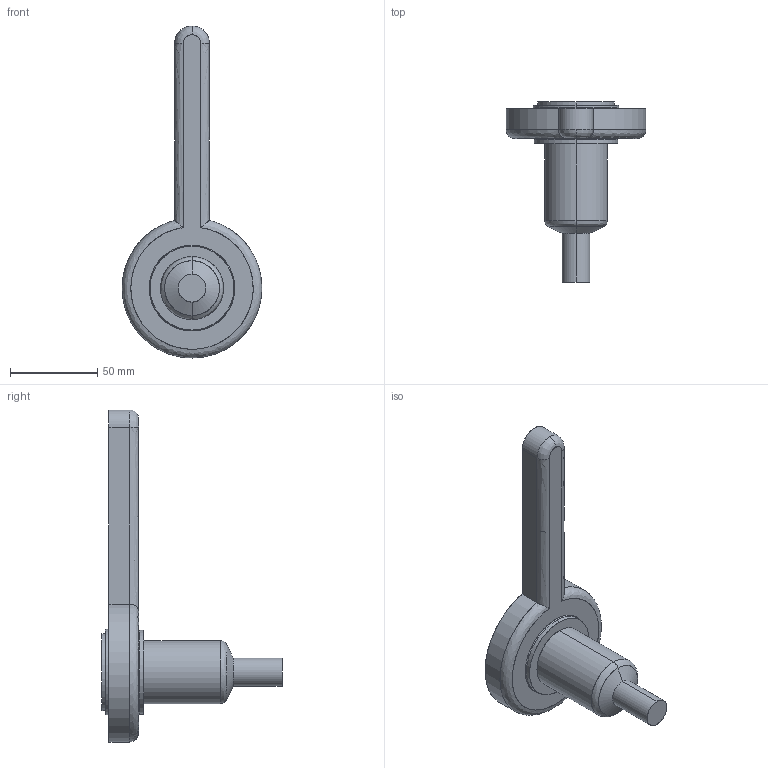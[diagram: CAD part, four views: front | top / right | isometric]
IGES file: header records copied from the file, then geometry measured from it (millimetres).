
Start section: SolidWorks IGES file using analytic representation for surfaces
Global section: file name: C:\Documents and Settings\ws-20\Desktop\TEMPORANEA\Sede UGBE5001-S-A C-54 L-76 P-25.IGS; native system: SolidWorks 2012; preprocessor: SolidWorks 2012; author: ws-20; date: 120307.090728; units: millimetre
Bounding box: 79.99 x 103.14 x 190 mm (x, y, z)
Surface area: 28914 mm2 (no closed solid volume)
Topology: 0 solids, 0 shells, 34 faces, 788 edges, 788 vertices
Faces by surface type: revolution 21, bspline 13
